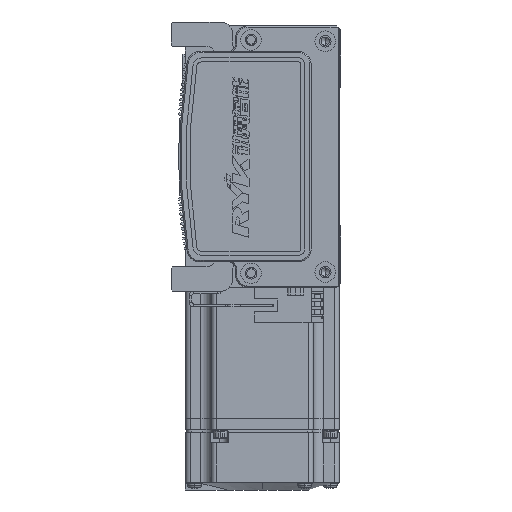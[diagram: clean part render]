
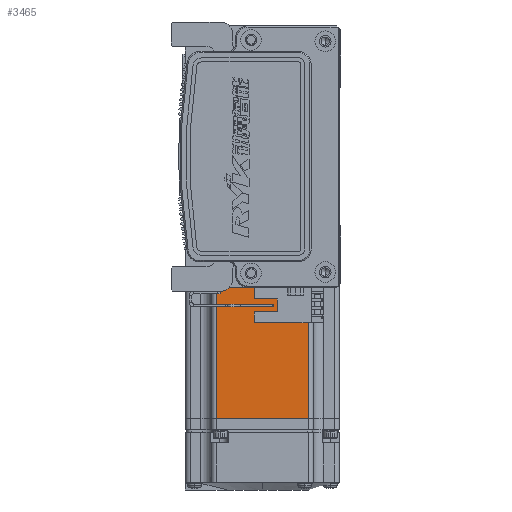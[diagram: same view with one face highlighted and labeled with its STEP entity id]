
A CAD part, left-side view. The second image highlights one B-rep face of the part: STEP entity #3465.
In plain terms, the highlighted planar face has unit normal (-1, 0, 0) as drawn and (0, 0, 1) by its records, which use the part's own axes.
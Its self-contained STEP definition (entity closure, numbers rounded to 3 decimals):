
#1295 = LINE ( 'NONE', #6779, #16487 ) ;
#2653 = EDGE_CURVE ( 'NONE', #3931, #7999, #1295, .T. ) ;
#3465 = ADVANCED_FACE ( 'NONE', ( #48208 ), #45222, .T. ) ;
#3472 = EDGE_LOOP ( 'NONE', ( #54747, #34922, #41024, #61548 ) ) ;
#3928 = VECTOR ( 'NONE', #16623, 1000. ) ;
#3931 = VERTEX_POINT ( 'NONE', #10022 ) ;
#4170 = EDGE_CURVE ( 'NONE', #3931, #31762, #60827, .T. ) ;
#6648 = LINE ( 'NONE', #39498, #45701 ) ;
#6763 = CARTESIAN_POINT ( 'NONE',  ( -70.95, -18., 30. ) ) ;
#6779 = CARTESIAN_POINT ( 'NONE',  ( -7.75, 0., 30. ) ) ;
#7125 = LINE ( 'NONE', #38011, #3928 ) ;
#7999 = VERTEX_POINT ( 'NONE', #58576 ) ;
#10022 = CARTESIAN_POINT ( 'NONE',  ( -7.75, 18., 30. ) ) ;
#16487 = VECTOR ( 'NONE', #47534, 1000. ) ;
#16623 = DIRECTION ( 'NONE',  ( 0., -1., 0. ) ) ;
#19995 = AXIS2_PLACEMENT_3D ( 'NONE', #50300, #29005, #39274 ) ;
#26858 = EDGE_CURVE ( 'NONE', #31762, #55778, #7125, .T. ) ;
#29005 = DIRECTION ( 'NONE',  ( 0., 0., 1. ) ) ;
#31762 = VERTEX_POINT ( 'NONE', #35484 ) ;
#32706 = DIRECTION ( 'NONE',  ( -1., 0., 0. ) ) ;
#34922 = ORIENTED_EDGE ( 'NONE', *, *, #4170, .T. ) ;
#35484 = CARTESIAN_POINT ( 'NONE',  ( -70.95, 18., 30. ) ) ;
#38011 = CARTESIAN_POINT ( 'NONE',  ( -70.95, 0., 30. ) ) ;
#39274 = DIRECTION ( 'NONE',  ( 1., 0., 0. ) ) ;
#39498 = CARTESIAN_POINT ( 'NONE',  ( -6.5, -18., 30. ) ) ;
#41024 = ORIENTED_EDGE ( 'NONE', *, *, #26858, .T. ) ;
#44597 = DIRECTION ( 'NONE',  ( -1., 0., 0. ) ) ;
#45222 = PLANE ( 'NONE',  #19995 ) ;
#45701 = VECTOR ( 'NONE', #44597, 1000. ) ;
#45746 = VECTOR ( 'NONE', #32706, 1000. ) ;
#47534 = DIRECTION ( 'NONE',  ( 0., -1., 0. ) ) ;
#48208 = FACE_OUTER_BOUND ( 'NONE', #3472, .T. ) ;
#50300 = CARTESIAN_POINT ( 'NONE',  ( -6.5, -25., 30. ) ) ;
#53558 = CARTESIAN_POINT ( 'NONE',  ( -6.5, 18., 30. ) ) ;
#54514 = EDGE_CURVE ( 'NONE', #7999, #55778, #6648, .T. ) ;
#54747 = ORIENTED_EDGE ( 'NONE', *, *, #2653, .F. ) ;
#55778 = VERTEX_POINT ( 'NONE', #6763 ) ;
#58576 = CARTESIAN_POINT ( 'NONE',  ( -7.75, -18., 30. ) ) ;
#60827 = LINE ( 'NONE', #53558, #45746 ) ;
#61548 = ORIENTED_EDGE ( 'NONE', *, *, #54514, .F. ) ;
